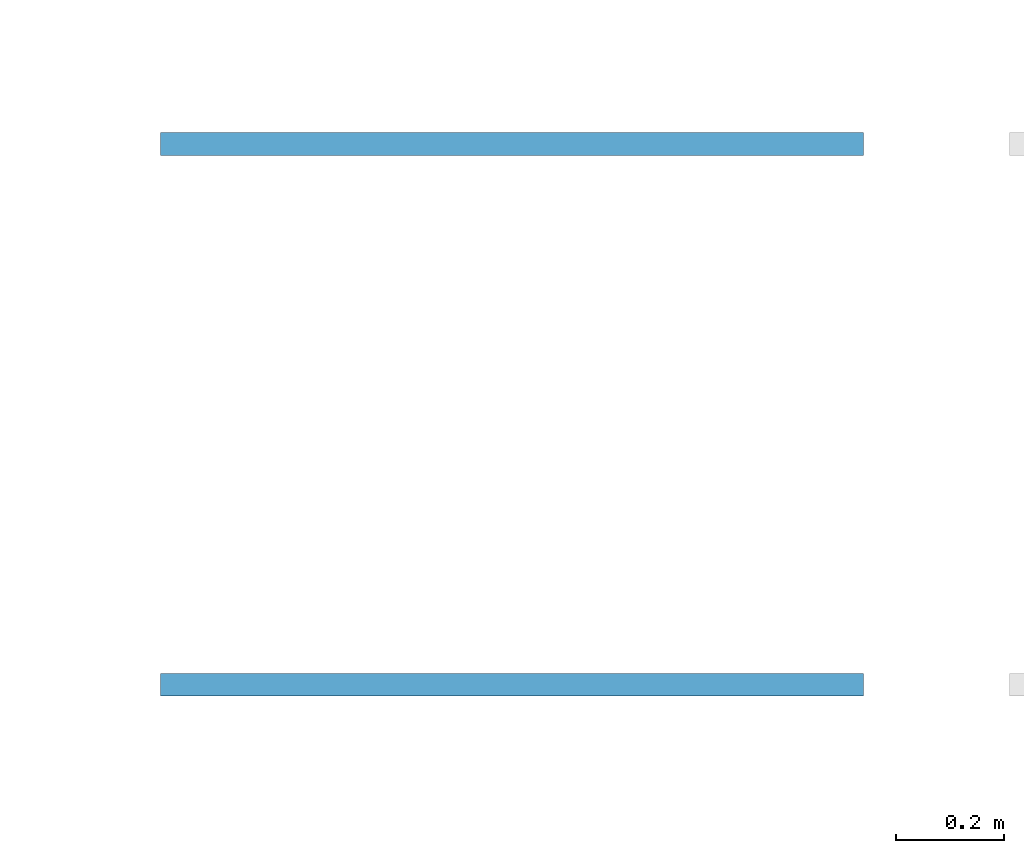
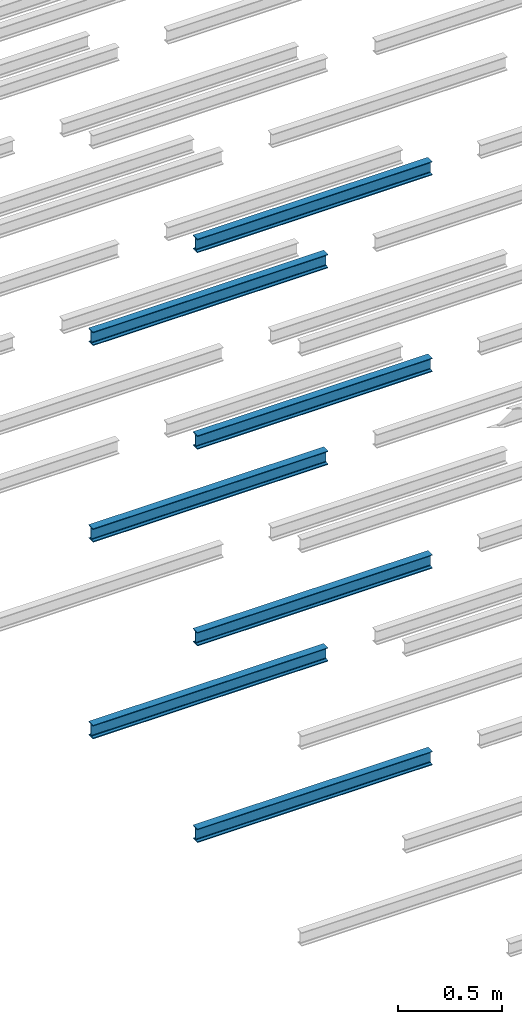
# One storey, part 36 of 290: 7 beams.
"""IFC2X3 building model written with IfcOpenShell, lengths in metres."""

from ifc_helpers import new_model, entity, si_unit, converted_unit, derived_unit, direction, frame, frame_2d, origin, place, context, subcontext, project, spatial, polyline, circle_curve, parameter, trimmed, segment, composite_curve, outline, extrude, material, type_object, element, save


model = new_model("IFC2X3")

# Units and contexts
model_context = context("Model", 3, precision=1e-05, world=origin(), true_north=direction((6.12303176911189e-17, 1.0)))
body_context = subcontext(model_context, "Body", "Model", "MODEL_VIEW")
ifc_project = project(units=[si_unit("LENGTHUNIT", "METRE"), si_unit("AREAUNIT", "SQUARE_METRE"), si_unit("VOLUMEUNIT", "CUBIC_METRE"), converted_unit("PLANEANGLEUNIT", "DEGREE", entity("IfcRatioMeasure", 0.0174532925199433), si_unit("PLANEANGLEUNIT", "RADIAN"), dimensions=[0, 0, 0, 0, 0, 0, 0]), si_unit("MASSUNIT", "GRAM", prefix="KILO"), derived_unit("MASSDENSITYUNIT", [(si_unit("MASSUNIT", "GRAM", prefix="KILO"), 1), (si_unit("LENGTHUNIT", "METRE"), -3)]), derived_unit("MOMENTOFINERTIAUNIT", [(si_unit("LENGTHUNIT", "METRE"), 4)]), si_unit("TIMEUNIT", "SECOND"), si_unit("FREQUENCYUNIT", "HERTZ"), si_unit("THERMODYNAMICTEMPERATUREUNIT", "DEGREE_CELSIUS"), derived_unit("THERMALTRANSMITTANCEUNIT", [(si_unit("MASSUNIT", "GRAM", prefix="KILO"), 1), (si_unit("THERMODYNAMICTEMPERATUREUNIT", "KELVIN"), -1), (si_unit("TIMEUNIT", "SECOND"), -3)]), derived_unit("VOLUMETRICFLOWRATEUNIT", [(si_unit("LENGTHUNIT", "METRE"), 3), (si_unit("TIMEUNIT", "SECOND"), -1)]), si_unit("ELECTRICCURRENTUNIT", "AMPERE"), si_unit("ELECTRICVOLTAGEUNIT", "VOLT"), si_unit("POWERUNIT", "WATT"), si_unit("FORCEUNIT", "NEWTON", prefix="KILO"), si_unit("ILLUMINANCEUNIT", "LUX"), si_unit("LUMINOUSFLUXUNIT", "LUMEN"), si_unit("LUMINOUSINTENSITYUNIT", "CANDELA"), derived_unit("USERDEFINED", [(si_unit("MASSUNIT", "GRAM", prefix="KILO"), -1), (si_unit("LENGTHUNIT", "METRE"), -2), (si_unit("TIMEUNIT", "SECOND"), 3), (si_unit("LUMINOUSFLUXUNIT", "LUMEN"), 1)]), derived_unit("LINEARVELOCITYUNIT", [(si_unit("LENGTHUNIT", "METRE"), 1), (si_unit("TIMEUNIT", "SECOND"), -1)]), si_unit("PRESSUREUNIT", "PASCAL"), derived_unit("USERDEFINED", [(si_unit("LENGTHUNIT", "METRE"), -2), (si_unit("MASSUNIT", "GRAM", prefix="KILO"), 1), (si_unit("TIMEUNIT", "SECOND"), -2)]), derived_unit("LINEARFORCEUNIT", [(si_unit("MASSUNIT", "GRAM", prefix="KILO"), 1), (si_unit("LENGTHUNIT", "METRE"), 1), (si_unit("TIMEUNIT", "SECOND"), -2), (si_unit("LENGTHUNIT", "METRE"), -1)]), derived_unit("PLANARFORCEUNIT", [(si_unit("MASSUNIT", "GRAM", prefix="KILO"), 1), (si_unit("LENGTHUNIT", "METRE"), 1), (si_unit("TIMEUNIT", "SECOND"), -2), (si_unit("LENGTHUNIT", "METRE"), -2)])], contexts=[model_context])

# Site, building, storey
site_placement = place(None, origin())
site = spatial("IfcSite", under=ifc_project, at=site_placement, Name="Default", CompositionType="ELEMENT")
building_placement = place(site_placement, origin())
building = spatial("IfcBuilding", under=site, at=building_placement, CompositionType="ELEMENT")
storey_placement = place(building_placement, frame((0.0, 0.0, 4.0)))
storey = spatial("IfcBuildingStorey", under=building, at=storey_placement, Name="01_OG", CompositionType="ELEMENT", Elevation=4.0)

# Beams
ifc_material = material(Name="Metall - Baustahl S235")
beam_type = type_object("IfcBeamType", Name="IPN Träger:IPN 80", PredefinedType="NOTDEFINED")
beam_1_placement = place(storey_placement, frame((-170.780111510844, 29.036588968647, -1.73), z_axis=(0.0, 0.0, 1.0), x_axis=(-1.0, 0.0, 0.0)))
element("IfcBeam", 1, at=beam_1_placement, inside=storey, type_object=beam_type, material=ifc_material, Name="IPN Träger:IPN 80", ObjectType="IPN Träger:IPN 80", context=body_context, shape_type="SweptSolid", body=[
    extrude(outline(composite_curve([segment(polyline([(0.0375704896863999, -0.0209999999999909), (0.0399999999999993, -0.0209999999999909)]), True, "CONTINUOUS"), segment(polyline([(0.0399999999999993, -0.0209999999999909), (0.0399999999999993, 0.0210000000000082)]), True, "CONTINUOUS"), segment(polyline([(0.0399999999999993, 0.0210000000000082), (0.0375704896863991, 0.0210000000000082)]), True, "CONTINUOUS"), segment(trimmed(circle_curve(frame_2d((0.0375704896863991, 0.0187000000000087), x_axis=(0.0, 1.0)), 0.00230000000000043), [parameter(0.0)], [parameter(82.0299999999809)], True, "PARAMETER"), True, "CONTINUOUS"), segment(polyline([(0.0352927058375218, 0.0190189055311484), (0.0333732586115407, 0.00530924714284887)]), True, "CONTINUOUS"), segment(trimmed(circle_curve(frame_2d((0.0295109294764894, 0.00585000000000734), x_axis=(0.990340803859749, -0.138654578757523)), 0.00389999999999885), [parameter(277.969999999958)], [parameter(0.0)], True, "PARAMETER"), False, "CONTINUOUS"), segment(polyline([(0.0295109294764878, 0.00195000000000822), (-0.0295109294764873, 0.00195000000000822)]), True, "CONTINUOUS"), segment(trimmed(circle_curve(frame_2d((-0.0295109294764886, 0.00585000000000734), x_axis=(0.0, -1.0)), 0.00389999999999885), [parameter(277.969999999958)], [parameter(0.0)], True, "PARAMETER"), False, "CONTINUOUS"), segment(polyline([(-0.0333732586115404, 0.0053092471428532), (-0.0352927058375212, 0.0190189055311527)]), True, "CONTINUOUS"), segment(trimmed(circle_curve(frame_2d((-0.0375704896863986, 0.0187000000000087), x_axis=(0.990340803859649, 0.138654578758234)), 0.00230000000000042), [parameter(0.0)], [parameter(82.0299999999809)], True, "PARAMETER"), True, "CONTINUOUS"), segment(polyline([(-0.0375704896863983, 0.0210000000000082), (-0.0400000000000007, 0.0210000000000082)]), True, "CONTINUOUS"), segment(polyline([(-0.0400000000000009, 0.0210000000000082), (-0.0400000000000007, -0.0209999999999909)]), True, "CONTINUOUS"), segment(polyline([(-0.0400000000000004, -0.0209999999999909), (-0.0375704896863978, -0.0209999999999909)]), True, "CONTINUOUS"), segment(trimmed(circle_curve(frame_2d((-0.0375704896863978, -0.0186999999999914), x_axis=(0.0, -1.0)), 0.00230000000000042), [parameter(0.0)], [parameter(82.0299999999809)], True, "PARAMETER"), True, "CONTINUOUS"), segment(polyline([(-0.0352927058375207, -0.019018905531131), (-0.0333732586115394, -0.00530924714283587)]), True, "CONTINUOUS"), segment(trimmed(circle_curve(frame_2d((-0.0295109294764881, -0.00584999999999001), x_axis=(-0.990340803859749, 0.138654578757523)), 0.00389999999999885), [parameter(277.969999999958)], [parameter(0.0)], True, "PARAMETER"), False, "CONTINUOUS"), segment(polyline([(-0.0295109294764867, -0.00194999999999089), (0.0295109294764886, -0.00194999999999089)]), True, "CONTINUOUS"), segment(trimmed(circle_curve(frame_2d((0.0295109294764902, -0.00584999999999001), x_axis=(0.0, 1.0)), 0.0038999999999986), [parameter(277.969999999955)], [parameter(0.0)], True, "PARAMETER"), False, "CONTINUOUS"), segment(polyline([(0.0333732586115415, -0.00530924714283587), (0.0352927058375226, -0.0190189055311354)]), True, "CONTINUOUS"), segment(trimmed(circle_curve(frame_2d((0.0375704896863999, -0.0186999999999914), x_axis=(-0.990340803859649, -0.138654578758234)), 0.00230000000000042), [parameter(0.0)], [parameter(82.0299999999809)], True, "PARAMETER"), True, "CONTINUOUS")], self_intersect=False)), frame((0.00010000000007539, 0.0209999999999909, -0.0400000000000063), z_axis=(1.0, 0.0, 0.0), x_axis=(0.0, 0.0, -1.0)), (0.0, 0.0, 1.0), 1.29990000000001),
])
beam_2_placement = place(storey_placement, frame((-170.780111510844, 29.036588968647, -0.579999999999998), z_axis=(0.0, 0.0, 1.0), x_axis=(-1.0, 0.0, 0.0)))
element("IfcBeam", 2, at=beam_2_placement, inside=storey, type_object=beam_type, material=ifc_material, Name="IPN Träger:IPN 80", ObjectType="IPN Träger:IPN 80", context=body_context, shape_type="SweptSolid", body=[
    extrude(outline(composite_curve([segment(polyline([(0.0375704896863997, -0.0209999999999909), (0.039999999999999, -0.0209999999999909)]), True, "CONTINUOUS"), segment(polyline([(0.039999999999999, -0.0209999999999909), (0.039999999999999, 0.0210000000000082)]), True, "CONTINUOUS"), segment(polyline([(0.039999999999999, 0.0210000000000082), (0.0375704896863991, 0.0210000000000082)]), True, "CONTINUOUS"), segment(trimmed(circle_curve(frame_2d((0.0375704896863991, 0.0187000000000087), x_axis=(0.0, 1.0)), 0.00230000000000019), [parameter(0.0)], [parameter(82.02999999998)], True, "PARAMETER"), True, "CONTINUOUS"), segment(polyline([(0.0352927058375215, 0.0190189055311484), (0.0333732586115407, 0.00530924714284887)]), True, "CONTINUOUS"), segment(trimmed(circle_curve(frame_2d((0.0295109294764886, 0.00585000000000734), x_axis=(0.990340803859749, -0.138654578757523)), 0.00389999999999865), [parameter(277.969999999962)], [parameter(0.0)], True, "PARAMETER"), False, "CONTINUOUS"), segment(polyline([(0.0295109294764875, 0.00195000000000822), (-0.0295109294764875, 0.00195000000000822)]), True, "CONTINUOUS"), segment(trimmed(circle_curve(frame_2d((-0.0295109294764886, 0.00585000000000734), x_axis=(0.0, -1.0)), 0.00389999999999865), [parameter(277.969999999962)], [parameter(0.0)], True, "PARAMETER"), False, "CONTINUOUS"), segment(polyline([(-0.0333732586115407, 0.0053092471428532), (-0.0352927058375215, 0.0190189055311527)]), True, "CONTINUOUS"), segment(trimmed(circle_curve(frame_2d((-0.0375704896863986, 0.0187000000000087), x_axis=(0.990340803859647, 0.138654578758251)), 0.00230000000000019), [parameter(0.0)], [parameter(82.02999999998)], True, "PARAMETER"), True, "CONTINUOUS"), segment(polyline([(-0.0375704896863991, 0.0210000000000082), (-0.0400000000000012, 0.0210000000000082)]), True, "CONTINUOUS"), segment(polyline([(-0.0400000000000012, 0.0210000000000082), (-0.0400000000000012, -0.0209999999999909)]), True, "CONTINUOUS"), segment(polyline([(-0.0400000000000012, -0.0209999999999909), (-0.037570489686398, -0.0209999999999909)]), True, "CONTINUOUS"), segment(trimmed(circle_curve(frame_2d((-0.037570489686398, -0.0186999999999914), x_axis=(0.0, -1.0)), 0.00230000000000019), [parameter(0.0)], [parameter(82.02999999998)], True, "PARAMETER"), True, "CONTINUOUS"), segment(polyline([(-0.035292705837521, -0.019018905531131), (-0.0333732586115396, -0.00530924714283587)]), True, "CONTINUOUS"), segment(trimmed(circle_curve(frame_2d((-0.0295109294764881, -0.00584999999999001), x_axis=(-0.990340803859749, 0.138654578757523)), 0.00389999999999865), [parameter(277.969999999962)], [parameter(0.0)], True, "PARAMETER"), False, "CONTINUOUS"), segment(polyline([(-0.029510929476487, -0.00194999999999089), (0.0295109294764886, -0.00194999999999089)]), True, "CONTINUOUS"), segment(trimmed(circle_curve(frame_2d((0.0295109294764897, -0.00584999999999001), x_axis=(0.0, 1.0)), 0.00389999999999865), [parameter(277.969999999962)], [parameter(0.0)], True, "PARAMETER"), False, "CONTINUOUS"), segment(polyline([(0.0333732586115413, -0.00530924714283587), (0.0352927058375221, -0.0190189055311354)]), True, "CONTINUOUS"), segment(trimmed(circle_curve(frame_2d((0.0375704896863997, -0.0186999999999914), x_axis=(-0.990340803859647, -0.138654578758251)), 0.00230000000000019), [parameter(0.0)], [parameter(82.02999999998)], True, "PARAMETER"), True, "CONTINUOUS")], self_intersect=False)), frame((0.000100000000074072, 0.0209999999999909, -0.0400000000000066), z_axis=(1.0, 0.0, 0.0), x_axis=(0.0, 0.0, -1.0)), (0.0, 0.0, 1.0), 1.29990000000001),
])
beam_3_placement = place(storey_placement, frame((-170.780111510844, 29.036588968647, 0.570000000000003), z_axis=(0.0, 0.0, 1.0), x_axis=(-1.0, 0.0, 0.0)))
element("IfcBeam", 3, at=beam_3_placement, inside=storey, type_object=beam_type, material=ifc_material, Name="IPN Träger:IPN 80", ObjectType="IPN Träger:IPN 80", context=body_context, shape_type="SweptSolid", body=[
    extrude(outline(composite_curve([segment(polyline([(0.0375704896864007, -0.0209999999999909), (0.0400000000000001, -0.0209999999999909)]), True, "CONTINUOUS"), segment(polyline([(0.0400000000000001, -0.0209999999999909), (0.0400000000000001, 0.0210000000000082)]), True, "CONTINUOUS"), segment(polyline([(0.0400000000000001, 0.0210000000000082), (0.0375704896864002, 0.0210000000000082)]), True, "CONTINUOUS"), segment(trimmed(circle_curve(frame_2d((0.0375704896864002, 0.0187000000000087), x_axis=(0.0, 1.0)), 0.00230000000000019), [parameter(0.0)], [parameter(82.02999999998)], True, "PARAMETER"), True, "CONTINUOUS"), segment(polyline([(0.0352927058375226, 0.0190189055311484), (0.0333732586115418, 0.00530924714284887)]), True, "CONTINUOUS"), segment(trimmed(circle_curve(frame_2d((0.0295109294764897, 0.00585000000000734), x_axis=(0.990340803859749, -0.138654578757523)), 0.00389999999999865), [parameter(277.969999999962)], [parameter(0.0)], True, "PARAMETER"), False, "CONTINUOUS"), segment(polyline([(0.0295109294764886, 0.00195000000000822), (-0.0295109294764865, 0.00195000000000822)]), True, "CONTINUOUS"), segment(trimmed(circle_curve(frame_2d((-0.0295109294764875, 0.00585000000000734), x_axis=(0.0, -1.0)), 0.00389999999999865), [parameter(277.969999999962)], [parameter(0.0)], True, "PARAMETER"), False, "CONTINUOUS"), segment(polyline([(-0.0333732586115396, 0.0053092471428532), (-0.0352927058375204, 0.0190189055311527)]), True, "CONTINUOUS"), segment(trimmed(circle_curve(frame_2d((-0.0375704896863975, 0.0187000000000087), x_axis=(0.990340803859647, 0.138654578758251)), 0.00230000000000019), [parameter(0.0)], [parameter(82.02999999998)], True, "PARAMETER"), True, "CONTINUOUS"), segment(polyline([(-0.037570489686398, 0.0210000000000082), (-0.0400000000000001, 0.0210000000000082)]), True, "CONTINUOUS"), segment(polyline([(-0.0400000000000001, 0.0210000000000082), (-0.0400000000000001, -0.0209999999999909)]), True, "CONTINUOUS"), segment(polyline([(-0.0400000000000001, -0.0209999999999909), (-0.0375704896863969, -0.0209999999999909)]), True, "CONTINUOUS"), segment(trimmed(circle_curve(frame_2d((-0.0375704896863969, -0.0186999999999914), x_axis=(0.0, -1.0)), 0.00230000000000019), [parameter(0.0)], [parameter(82.02999999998)], True, "PARAMETER"), True, "CONTINUOUS"), segment(polyline([(-0.0352927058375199, -0.019018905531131), (-0.0333732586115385, -0.00530924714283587)]), True, "CONTINUOUS"), segment(trimmed(circle_curve(frame_2d((-0.029510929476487, -0.00584999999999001), x_axis=(-0.990340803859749, 0.138654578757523)), 0.00389999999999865), [parameter(277.969999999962)], [parameter(0.0)], True, "PARAMETER"), False, "CONTINUOUS"), segment(polyline([(-0.0295109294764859, -0.00194999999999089), (0.0295109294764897, -0.00194999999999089)]), True, "CONTINUOUS"), segment(trimmed(circle_curve(frame_2d((0.0295109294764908, -0.00584999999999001), x_axis=(0.0, 1.0)), 0.00389999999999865), [parameter(277.969999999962)], [parameter(0.0)], True, "PARAMETER"), False, "CONTINUOUS"), segment(polyline([(0.0333732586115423, -0.00530924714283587), (0.0352927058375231, -0.0190189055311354)]), True, "CONTINUOUS"), segment(trimmed(circle_curve(frame_2d((0.0375704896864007, -0.0186999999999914), x_axis=(-0.990340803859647, -0.138654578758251)), 0.00230000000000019), [parameter(0.0)], [parameter(82.02999999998)], True, "PARAMETER"), True, "CONTINUOUS")], self_intersect=False)), frame((0.000100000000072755, 0.0209999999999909, -0.0400000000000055), z_axis=(1.0, 0.0, 0.0), x_axis=(0.0, 0.0, -1.0)), (0.0, 0.0, 1.0), 1.29990000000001),
])
beam_4_placement = place(storey_placement, frame((-170.780111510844, 28.036588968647, -1.73), z_axis=(0.0, 0.0, 1.0), x_axis=(-1.0, 0.0, 0.0)))
element("IfcBeam", 4, at=beam_4_placement, inside=storey, type_object=beam_type, material=ifc_material, Name="IPN Träger:IPN 80", ObjectType="IPN Träger:IPN 80", context=body_context, shape_type="SweptSolid", body=[
    extrude(outline(composite_curve([segment(polyline([(0.0375704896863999, -0.0210000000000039), (0.0399999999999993, -0.0210000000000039)]), True, "CONTINUOUS"), segment(polyline([(0.0399999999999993, -0.0210000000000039), (0.0399999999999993, 0.0209999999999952)]), True, "CONTINUOUS"), segment(polyline([(0.0399999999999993, 0.0209999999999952), (0.0375704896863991, 0.0209999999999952)]), True, "CONTINUOUS"), segment(trimmed(circle_curve(frame_2d((0.0375704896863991, 0.0186999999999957), x_axis=(0.0, 1.0)), 0.00230000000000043), [parameter(0.0)], [parameter(82.0299999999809)], True, "PARAMETER"), True, "CONTINUOUS"), segment(polyline([(0.0352927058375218, 0.0190189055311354), (0.0333732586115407, 0.00530924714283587)]), True, "CONTINUOUS"), segment(trimmed(circle_curve(frame_2d((0.0295109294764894, 0.00584999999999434), x_axis=(0.990340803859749, -0.138654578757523)), 0.00389999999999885), [parameter(277.969999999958)], [parameter(0.0)], True, "PARAMETER"), False, "CONTINUOUS"), segment(polyline([(0.0295109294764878, 0.00194999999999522), (-0.0295109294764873, 0.00194999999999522)]), True, "CONTINUOUS"), segment(trimmed(circle_curve(frame_2d((-0.0295109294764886, 0.00584999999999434), x_axis=(0.0, -1.0)), 0.00389999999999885), [parameter(277.969999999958)], [parameter(0.0)], True, "PARAMETER"), False, "CONTINUOUS"), segment(polyline([(-0.0333732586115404, 0.0053092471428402), (-0.0352927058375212, 0.0190189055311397)]), True, "CONTINUOUS"), segment(trimmed(circle_curve(frame_2d((-0.0375704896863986, 0.0186999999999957), x_axis=(0.990340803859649, 0.138654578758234)), 0.00230000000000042), [parameter(0.0)], [parameter(82.0299999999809)], True, "PARAMETER"), True, "CONTINUOUS"), segment(polyline([(-0.0375704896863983, 0.0209999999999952), (-0.0400000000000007, 0.0209999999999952)]), True, "CONTINUOUS"), segment(polyline([(-0.0400000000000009, 0.0209999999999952), (-0.0400000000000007, -0.0210000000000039)]), True, "CONTINUOUS"), segment(polyline([(-0.0400000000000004, -0.0210000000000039), (-0.0375704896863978, -0.0210000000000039)]), True, "CONTINUOUS"), segment(trimmed(circle_curve(frame_2d((-0.0375704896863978, -0.0187000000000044), x_axis=(0.0, -1.0)), 0.00230000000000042), [parameter(0.0)], [parameter(82.0299999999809)], True, "PARAMETER"), True, "CONTINUOUS"), segment(polyline([(-0.0352927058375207, -0.019018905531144), (-0.0333732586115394, -0.00530924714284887)]), True, "CONTINUOUS"), segment(trimmed(circle_curve(frame_2d((-0.0295109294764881, -0.005850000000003), x_axis=(-0.990340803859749, 0.138654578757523)), 0.00389999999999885), [parameter(277.969999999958)], [parameter(0.0)], True, "PARAMETER"), False, "CONTINUOUS"), segment(polyline([(-0.0295109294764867, -0.00195000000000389), (0.0295109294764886, -0.00195000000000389)]), True, "CONTINUOUS"), segment(trimmed(circle_curve(frame_2d((0.0295109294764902, -0.005850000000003), x_axis=(0.0, 1.0)), 0.0038999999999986), [parameter(277.969999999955)], [parameter(0.0)], True, "PARAMETER"), False, "CONTINUOUS"), segment(polyline([(0.0333732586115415, -0.00530924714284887), (0.0352927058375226, -0.0190189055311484)]), True, "CONTINUOUS"), segment(trimmed(circle_curve(frame_2d((0.0375704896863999, -0.0187000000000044), x_axis=(-0.990340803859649, -0.138654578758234)), 0.00230000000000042), [parameter(0.0)], [parameter(82.0299999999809)], True, "PARAMETER"), True, "CONTINUOUS")], self_intersect=False)), frame((0.00010000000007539, 0.0210000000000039, -0.0400000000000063), z_axis=(1.0, 0.0, 0.0), x_axis=(0.0, 0.0, -1.0)), (0.0, 0.0, 1.0), 1.29990000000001),
])
beam_5_placement = place(storey_placement, frame((-170.780111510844, 28.036588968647, -0.579999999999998), z_axis=(0.0, 0.0, 1.0), x_axis=(-1.0, 0.0, 0.0)))
element("IfcBeam", 5, at=beam_5_placement, inside=storey, type_object=beam_type, material=ifc_material, Name="IPN Träger:IPN 80", ObjectType="IPN Träger:IPN 80", context=body_context, shape_type="SweptSolid", body=[
    extrude(outline(composite_curve([segment(polyline([(0.0375704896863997, -0.0210000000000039), (0.039999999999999, -0.0210000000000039)]), True, "CONTINUOUS"), segment(polyline([(0.039999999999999, -0.0210000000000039), (0.039999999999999, 0.0209999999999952)]), True, "CONTINUOUS"), segment(polyline([(0.039999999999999, 0.0209999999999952), (0.0375704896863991, 0.0209999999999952)]), True, "CONTINUOUS"), segment(trimmed(circle_curve(frame_2d((0.0375704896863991, 0.0186999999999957), x_axis=(0.0, 1.0)), 0.00230000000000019), [parameter(0.0)], [parameter(82.02999999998)], True, "PARAMETER"), True, "CONTINUOUS"), segment(polyline([(0.0352927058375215, 0.0190189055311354), (0.0333732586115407, 0.00530924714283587)]), True, "CONTINUOUS"), segment(trimmed(circle_curve(frame_2d((0.0295109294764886, 0.00584999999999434), x_axis=(0.990340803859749, -0.138654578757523)), 0.00389999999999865), [parameter(277.969999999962)], [parameter(0.0)], True, "PARAMETER"), False, "CONTINUOUS"), segment(polyline([(0.0295109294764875, 0.00194999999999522), (-0.0295109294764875, 0.00194999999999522)]), True, "CONTINUOUS"), segment(trimmed(circle_curve(frame_2d((-0.0295109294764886, 0.00584999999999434), x_axis=(0.0, -1.0)), 0.00389999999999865), [parameter(277.969999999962)], [parameter(0.0)], True, "PARAMETER"), False, "CONTINUOUS"), segment(polyline([(-0.0333732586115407, 0.0053092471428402), (-0.0352927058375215, 0.0190189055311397)]), True, "CONTINUOUS"), segment(trimmed(circle_curve(frame_2d((-0.0375704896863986, 0.0186999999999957), x_axis=(0.990340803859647, 0.138654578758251)), 0.00230000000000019), [parameter(0.0)], [parameter(82.02999999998)], True, "PARAMETER"), True, "CONTINUOUS"), segment(polyline([(-0.0375704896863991, 0.0209999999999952), (-0.0400000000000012, 0.0209999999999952)]), True, "CONTINUOUS"), segment(polyline([(-0.0400000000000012, 0.0209999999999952), (-0.0400000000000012, -0.0210000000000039)]), True, "CONTINUOUS"), segment(polyline([(-0.0400000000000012, -0.0210000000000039), (-0.037570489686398, -0.0210000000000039)]), True, "CONTINUOUS"), segment(trimmed(circle_curve(frame_2d((-0.037570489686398, -0.0187000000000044), x_axis=(0.0, -1.0)), 0.00230000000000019), [parameter(0.0)], [parameter(82.02999999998)], True, "PARAMETER"), True, "CONTINUOUS"), segment(polyline([(-0.035292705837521, -0.019018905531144), (-0.0333732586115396, -0.00530924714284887)]), True, "CONTINUOUS"), segment(trimmed(circle_curve(frame_2d((-0.0295109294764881, -0.005850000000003), x_axis=(-0.990340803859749, 0.138654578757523)), 0.00389999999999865), [parameter(277.969999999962)], [parameter(0.0)], True, "PARAMETER"), False, "CONTINUOUS"), segment(polyline([(-0.029510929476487, -0.00195000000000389), (0.0295109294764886, -0.00195000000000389)]), True, "CONTINUOUS"), segment(trimmed(circle_curve(frame_2d((0.0295109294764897, -0.005850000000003), x_axis=(0.0, 1.0)), 0.00389999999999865), [parameter(277.969999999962)], [parameter(0.0)], True, "PARAMETER"), False, "CONTINUOUS"), segment(polyline([(0.0333732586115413, -0.00530924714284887), (0.0352927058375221, -0.0190189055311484)]), True, "CONTINUOUS"), segment(trimmed(circle_curve(frame_2d((0.0375704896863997, -0.0187000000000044), x_axis=(-0.990340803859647, -0.138654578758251)), 0.00230000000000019), [parameter(0.0)], [parameter(82.02999999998)], True, "PARAMETER"), True, "CONTINUOUS")], self_intersect=False)), frame((0.000100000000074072, 0.0210000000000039, -0.0400000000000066), z_axis=(1.0, 0.0, 0.0), x_axis=(0.0, 0.0, -1.0)), (0.0, 0.0, 1.0), 1.29990000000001),
])
beam_6_placement = place(storey_placement, frame((-170.780111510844, 28.036588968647, 0.570000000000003), z_axis=(0.0, 0.0, 1.0), x_axis=(-1.0, 0.0, 0.0)))
element("IfcBeam", 6, at=beam_6_placement, inside=storey, type_object=beam_type, material=ifc_material, Name="IPN Träger:IPN 80", ObjectType="IPN Träger:IPN 80", context=body_context, shape_type="SweptSolid", body=[
    extrude(outline(composite_curve([segment(polyline([(0.0375704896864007, -0.0210000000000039), (0.0400000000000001, -0.0210000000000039)]), True, "CONTINUOUS"), segment(polyline([(0.0400000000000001, -0.0210000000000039), (0.0400000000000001, 0.0209999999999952)]), True, "CONTINUOUS"), segment(polyline([(0.0400000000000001, 0.0209999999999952), (0.0375704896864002, 0.0209999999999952)]), True, "CONTINUOUS"), segment(trimmed(circle_curve(frame_2d((0.0375704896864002, 0.0186999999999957), x_axis=(0.0, 1.0)), 0.00230000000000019), [parameter(0.0)], [parameter(82.02999999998)], True, "PARAMETER"), True, "CONTINUOUS"), segment(polyline([(0.0352927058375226, 0.0190189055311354), (0.0333732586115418, 0.00530924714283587)]), True, "CONTINUOUS"), segment(trimmed(circle_curve(frame_2d((0.0295109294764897, 0.00584999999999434), x_axis=(0.990340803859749, -0.138654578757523)), 0.00389999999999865), [parameter(277.969999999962)], [parameter(0.0)], True, "PARAMETER"), False, "CONTINUOUS"), segment(polyline([(0.0295109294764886, 0.00194999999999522), (-0.0295109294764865, 0.00194999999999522)]), True, "CONTINUOUS"), segment(trimmed(circle_curve(frame_2d((-0.0295109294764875, 0.00584999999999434), x_axis=(0.0, -1.0)), 0.00389999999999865), [parameter(277.969999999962)], [parameter(0.0)], True, "PARAMETER"), False, "CONTINUOUS"), segment(polyline([(-0.0333732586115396, 0.0053092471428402), (-0.0352927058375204, 0.0190189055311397)]), True, "CONTINUOUS"), segment(trimmed(circle_curve(frame_2d((-0.0375704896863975, 0.0186999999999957), x_axis=(0.990340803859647, 0.138654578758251)), 0.00230000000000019), [parameter(0.0)], [parameter(82.02999999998)], True, "PARAMETER"), True, "CONTINUOUS"), segment(polyline([(-0.037570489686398, 0.0209999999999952), (-0.0400000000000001, 0.0209999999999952)]), True, "CONTINUOUS"), segment(polyline([(-0.0400000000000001, 0.0209999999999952), (-0.0400000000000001, -0.0210000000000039)]), True, "CONTINUOUS"), segment(polyline([(-0.0400000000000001, -0.0210000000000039), (-0.0375704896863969, -0.0210000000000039)]), True, "CONTINUOUS"), segment(trimmed(circle_curve(frame_2d((-0.0375704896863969, -0.0187000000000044), x_axis=(0.0, -1.0)), 0.00230000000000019), [parameter(0.0)], [parameter(82.02999999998)], True, "PARAMETER"), True, "CONTINUOUS"), segment(polyline([(-0.0352927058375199, -0.019018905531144), (-0.0333732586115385, -0.00530924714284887)]), True, "CONTINUOUS"), segment(trimmed(circle_curve(frame_2d((-0.029510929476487, -0.005850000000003), x_axis=(-0.990340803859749, 0.138654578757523)), 0.00389999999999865), [parameter(277.969999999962)], [parameter(0.0)], True, "PARAMETER"), False, "CONTINUOUS"), segment(polyline([(-0.0295109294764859, -0.00195000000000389), (0.0295109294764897, -0.00195000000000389)]), True, "CONTINUOUS"), segment(trimmed(circle_curve(frame_2d((0.0295109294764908, -0.005850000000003), x_axis=(0.0, 1.0)), 0.00389999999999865), [parameter(277.969999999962)], [parameter(0.0)], True, "PARAMETER"), False, "CONTINUOUS"), segment(polyline([(0.0333732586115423, -0.00530924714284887), (0.0352927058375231, -0.0190189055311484)]), True, "CONTINUOUS"), segment(trimmed(circle_curve(frame_2d((0.0375704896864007, -0.0187000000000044), x_axis=(-0.990340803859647, -0.138654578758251)), 0.00230000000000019), [parameter(0.0)], [parameter(82.02999999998)], True, "PARAMETER"), True, "CONTINUOUS")], self_intersect=False)), frame((0.000100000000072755, 0.0210000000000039, -0.0400000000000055), z_axis=(1.0, 0.0, 0.0), x_axis=(0.0, 0.0, -1.0)), (0.0, 0.0, 1.0), 1.29990000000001),
])
beam_7_placement = place(storey_placement, frame((-170.780111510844, 28.036588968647, 1.72), z_axis=(0.0, 0.0, 1.0), x_axis=(-1.0, 0.0, 0.0)))
element("IfcBeam", 7, at=beam_7_placement, inside=storey, type_object=beam_type, material=ifc_material, Name="IPN Träger:IPN 80", ObjectType="IPN Träger:IPN 80", context=body_context, shape_type="SweptSolid", body=[
    extrude(outline(composite_curve([segment(polyline([(0.0375704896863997, -0.0210000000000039), (0.0399999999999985, -0.0210000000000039)]), True, "CONTINUOUS"), segment(polyline([(0.0399999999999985, -0.0210000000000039), (0.0399999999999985, 0.0209999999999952)]), True, "CONTINUOUS"), segment(polyline([(0.0399999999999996, 0.0209999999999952), (0.0375704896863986, 0.0209999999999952)]), True, "CONTINUOUS"), segment(trimmed(circle_curve(frame_2d((0.0375704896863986, 0.0186999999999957), x_axis=(0.0, 1.0)), 0.00230000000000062), [parameter(0.0)], [parameter(82.0299999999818)], True, "PARAMETER"), True, "CONTINUOUS"), segment(polyline([(0.0352927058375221, 0.0190189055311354), (0.0333732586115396, 0.00530924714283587)]), True, "CONTINUOUS"), segment(trimmed(circle_curve(frame_2d((0.0295109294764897, 0.00584999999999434), x_axis=(0.990340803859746, -0.138654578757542)), 0.00389999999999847), [parameter(277.969999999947)], [parameter(0.0)], True, "PARAMETER"), False, "CONTINUOUS"), segment(polyline([(0.0295109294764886, 0.00194999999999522), (-0.0295109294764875, 0.00194999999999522)]), True, "CONTINUOUS"), segment(trimmed(circle_curve(frame_2d((-0.0295109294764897, 0.00584999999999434), x_axis=(0.0, -1.0)), 0.00389999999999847), [parameter(277.969999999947)], [parameter(0.0)], True, "PARAMETER"), False, "CONTINUOUS"), segment(polyline([(-0.0333732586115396, 0.0053092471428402), (-0.0352927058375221, 0.0190189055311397)]), True, "CONTINUOUS"), segment(trimmed(circle_curve(frame_2d((-0.0375704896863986, 0.0186999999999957), x_axis=(0.990340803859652, 0.138654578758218)), 0.00230000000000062), [parameter(0.0)], [parameter(82.0299999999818)], True, "PARAMETER"), True, "CONTINUOUS"), segment(polyline([(-0.0375704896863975, 0.0209999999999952), (-0.0400000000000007, 0.0209999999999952)]), True, "CONTINUOUS"), segment(polyline([(-0.0400000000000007, 0.0209999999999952), (-0.0400000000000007, -0.0210000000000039)]), True, "CONTINUOUS"), segment(polyline([(-0.0400000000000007, -0.0210000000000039), (-0.0375704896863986, -0.0210000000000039)]), True, "CONTINUOUS"), segment(trimmed(circle_curve(frame_2d((-0.0375704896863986, -0.0187000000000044), x_axis=(0.0, -1.0)), 0.00230000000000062), [parameter(0.0)], [parameter(82.0299999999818)], True, "PARAMETER"), True, "CONTINUOUS"), segment(polyline([(-0.035292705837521, -0.019018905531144), (-0.0333732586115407, -0.00530924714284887)]), True, "CONTINUOUS"), segment(trimmed(circle_curve(frame_2d((-0.0295109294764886, -0.005850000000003), x_axis=(-0.990340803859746, 0.138654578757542)), 0.00389999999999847), [parameter(277.969999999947)], [parameter(0.0)], True, "PARAMETER"), False, "CONTINUOUS"), segment(polyline([(-0.0295109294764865, -0.00195000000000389), (0.0295109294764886, -0.00195000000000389)]), True, "CONTINUOUS"), segment(trimmed(circle_curve(frame_2d((0.0295109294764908, -0.005850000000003), x_axis=(0.0, 1.0)), 0.00389999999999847), [parameter(277.969999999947)], [parameter(0.0)], True, "PARAMETER"), False, "CONTINUOUS"), segment(polyline([(0.0333732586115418, -0.00530924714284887), (0.0352927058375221, -0.0190189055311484)]), True, "CONTINUOUS"), segment(trimmed(circle_curve(frame_2d((0.0375704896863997, -0.0187000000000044), x_axis=(-0.990340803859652, -0.138654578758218)), 0.00230000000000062), [parameter(0.0)], [parameter(82.0299999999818)], True, "PARAMETER"), True, "CONTINUOUS")], self_intersect=False)), frame((0.000100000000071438, 0.0210000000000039, -0.040000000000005), z_axis=(1.0, 0.0, 0.0), x_axis=(0.0, 0.0, -1.0)), (0.0, 0.0, 1.0), 1.29990000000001),
])

save(model, "model.ifc")
